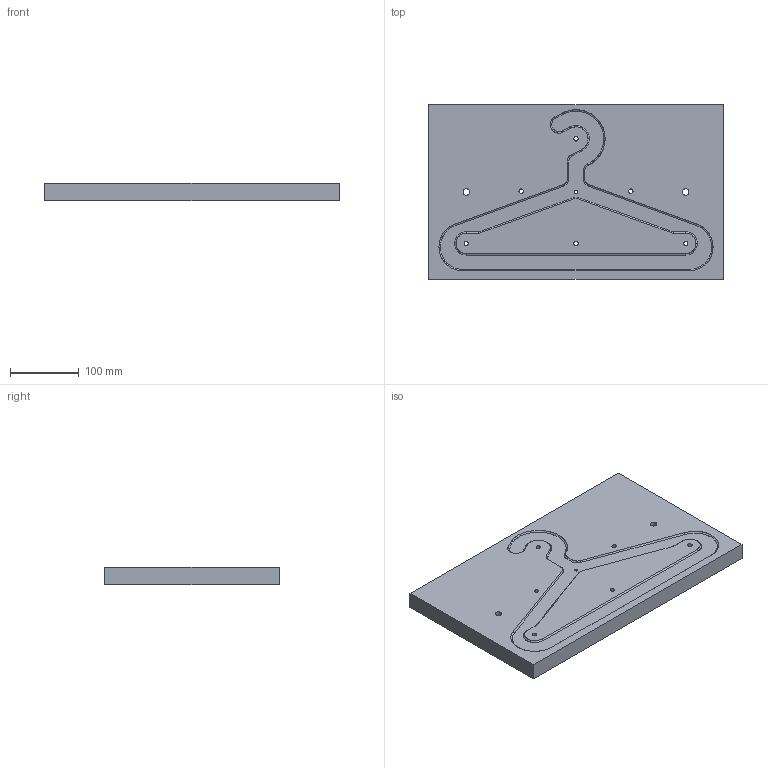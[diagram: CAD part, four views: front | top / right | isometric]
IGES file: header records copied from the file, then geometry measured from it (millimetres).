
Start section: SolidWorks IGES file using analytic representation for surfaces
Global section: file name: C:\Users\Andrés Garzón\Documents\Independiente\Plastico Guatavita\Diseños en plástico\Gancho de ropa\V3\Files\IGES\B.IGS; native system: SolidWorks 2018; preprocessor: SolidWorks 2018; author: Andrés Garzón; date: 231128.130812; units: millimetre
Bounding box: 430 x 255 x 25.4 mm (x, y, z)
Surface area: 260567.5 mm2 (no closed solid volume)
Topology: 0 solids, 0 shells, 57 faces, 962 edges, 962 vertices
Faces by surface type: revolution 31, bspline 26
